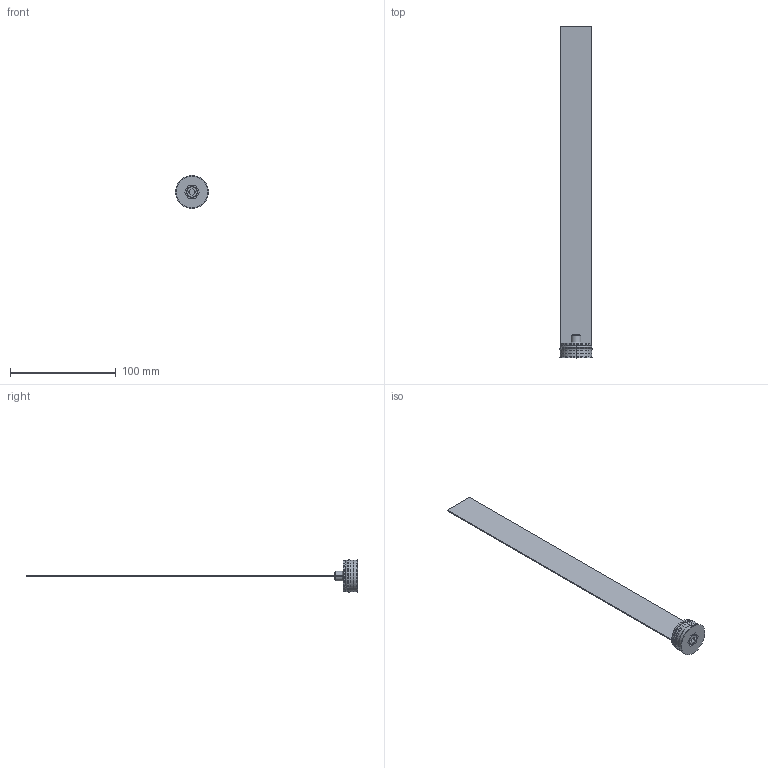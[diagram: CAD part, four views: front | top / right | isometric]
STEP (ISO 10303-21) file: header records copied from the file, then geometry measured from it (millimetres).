
FILE_DESCRIPTION (( 'STEP AP203' ), '1' );
FILE_NAME ('RL30x300F.STEP', '2015-12-04T10:21:48', ( 'Balzi' ), ( '' ), 'SwSTEP 2.0', 'SolidWorks 2015', '' );
FILE_SCHEMA (( 'CONFIG_CONTROL_DESIGN' ));
Length unit declared in the file: millimetre
Products named in the file (1): RL30x300F
Bounding box: 31.4 x 314 x 31.4 mm (x, y, z)
Volume: 18895.7 mm3; surface area: 22147.2 mm2
Topology: 1 solids, 1 shells, 75 faces, 177 edges, 109 vertices
Faces by surface type: plane 31, cone 19, cylinder 17, torus 8
Entity records: 2245 total; most frequent: CARTESIAN_POINT 412, DIRECTION 386, ORIENTED_EDGE 354, EDGE_CURVE 177, AXIS2_PLACEMENT_3D 147, VERTEX_POINT 109, VECTOR 92, LINE 92
